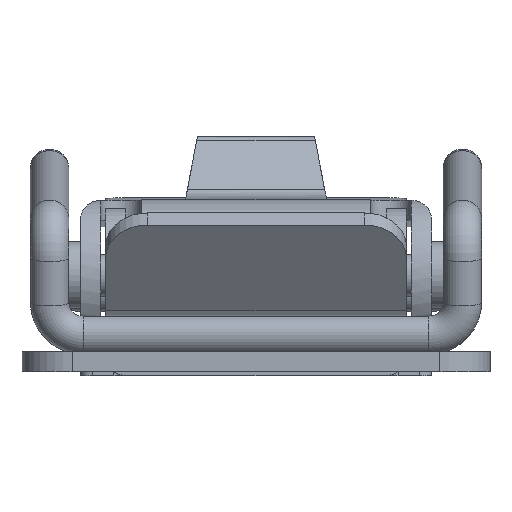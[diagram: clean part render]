
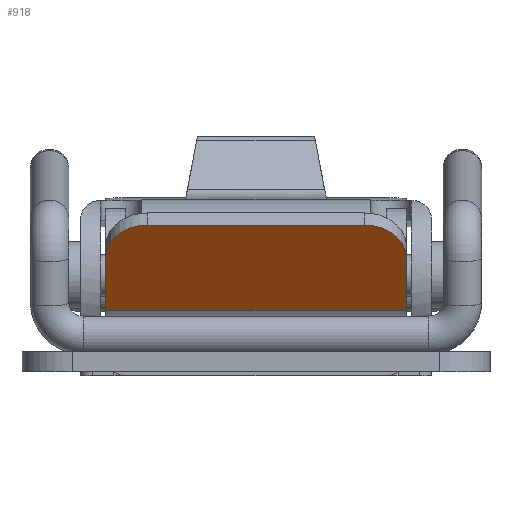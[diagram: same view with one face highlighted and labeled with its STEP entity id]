
A CAD part, left-side view. The second image highlights one B-rep face of the part: STEP entity #918.
In plain terms, the highlighted planar face has unit normal (-0.799, 0, -0.602).
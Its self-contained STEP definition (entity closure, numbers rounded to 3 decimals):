
#788=FACE_OUTER_BOUND('',#1731,.T.);
#918=ADVANCED_FACE('',(#788),#1033,.F.);
#1033=PLANE('',#3413);
#1176=LINE('',#4735,#1399);
#1180=LINE('',#4749,#1403);
#1188=LINE('',#4775,#1411);
#1191=LINE('',#4783,#1414);
#1399=VECTOR('',#3915,1.);
#1403=VECTOR('',#3929,1.);
#1411=VECTOR('',#3953,1.);
#1414=VECTOR('',#3962,1.);
#1731=EDGE_LOOP('',(#2176,#2177,#2178,#2179,#2180,#2181));
#2176=ORIENTED_EDGE('',*,*,#2965,.F.);
#2177=ORIENTED_EDGE('',*,*,#2990,.T.);
#2178=ORIENTED_EDGE('',*,*,#2987,.T.);
#2179=ORIENTED_EDGE('',*,*,#2991,.T.);
#2180=ORIENTED_EDGE('',*,*,#2973,.T.);
#2181=ORIENTED_EDGE('',*,*,#2992,.F.);
#2670=VERTEX_POINT('',#4734);
#2671=VERTEX_POINT('',#4736);
#2676=VERTEX_POINT('',#4750);
#2677=VERTEX_POINT('',#4751);
#2686=VERTEX_POINT('',#4776);
#2687=VERTEX_POINT('',#4777);
#2965=EDGE_CURVE('',#2670,#2671,#1176,.T.);
#2973=EDGE_CURVE('',#2676,#2677,#1180,.T.);
#2987=EDGE_CURVE('',#2686,#2687,#1188,.T.);
#2990=EDGE_CURVE('',#2670,#2686,#3221,.T.);
#2991=EDGE_CURVE('',#2687,#2676,#3222,.T.);
#2992=EDGE_CURVE('',#2671,#2677,#1191,.T.);
#3221=CIRCLE('',#3411,2.5);
#3222=CIRCLE('',#3412,2.5);
#3411=AXIS2_PLACEMENT_3D('',#4781,#3958,#3959);
#3412=AXIS2_PLACEMENT_3D('',#4782,#3960,#3961);
#3413=AXIS2_PLACEMENT_3D('',#4784,#3963,#3964);
#3915=DIRECTION('',(0.602,0.,-0.799));
#3929=DIRECTION('',(0.602,0.,-0.799));
#3953=DIRECTION('',(0.,1.,0.));
#3958=DIRECTION('',(-0.799,0.,-0.602));
#3959=DIRECTION('',(0.602,0.,-0.799));
#3960=DIRECTION('',(-0.799,0.,-0.602));
#3961=DIRECTION('',(0.602,0.,-0.799));
#3962=DIRECTION('',(0.,1.,0.));
#3963=DIRECTION('',(0.799,0.,0.602));
#3964=DIRECTION('',(0.602,0.,-0.799));
#4734=CARTESIAN_POINT('',(9.505,-9.,6.781));
#4735=CARTESIAN_POINT('',(8.,-9.,8.778));
#4736=CARTESIAN_POINT('',(11.837,-9.,3.686));
#4749=CARTESIAN_POINT('',(8.,9.,8.778));
#4750=CARTESIAN_POINT('',(9.505,9.,6.781));
#4751=CARTESIAN_POINT('',(11.837,9.,3.686));
#4775=CARTESIAN_POINT('',(8.,-9.,8.778));
#4776=CARTESIAN_POINT('',(8.,-6.5,8.778));
#4777=CARTESIAN_POINT('',(8.,6.5,8.778));
#4781=CARTESIAN_POINT('',(9.505,-6.5,6.781));
#4782=CARTESIAN_POINT('',(9.505,6.5,6.781));
#4783=CARTESIAN_POINT('',(11.837,-9.,3.686));
#4784=CARTESIAN_POINT('',(8.,-9.,8.778));
